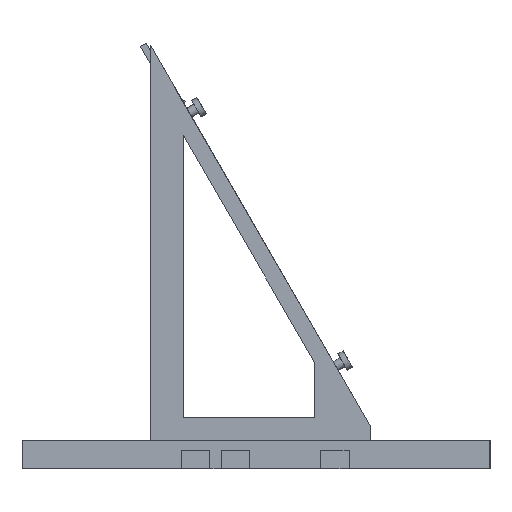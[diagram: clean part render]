
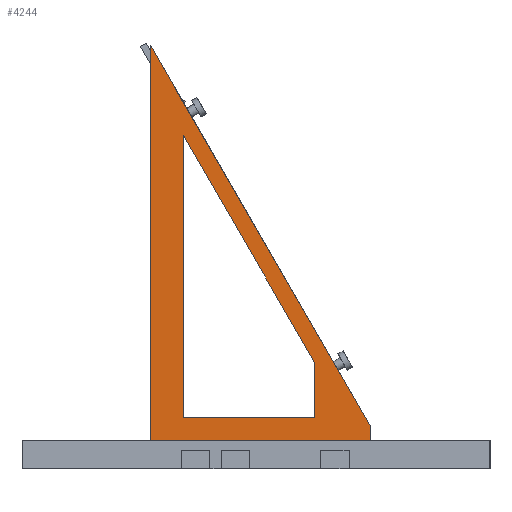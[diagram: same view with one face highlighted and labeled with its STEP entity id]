
A CAD part, left-side view. The second image highlights one B-rep face of the part: STEP entity #4244.
In plain terms, the highlighted planar face has unit normal (-1, 0, 0).
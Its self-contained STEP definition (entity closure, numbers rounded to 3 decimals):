
#72 = PLANE('',#73);
#73 = AXIS2_PLACEMENT_3D('',#74,#75,#76);
#74 = CARTESIAN_POINT('',(0.,-15.,12.));
#75 = DIRECTION('',(0.,0.,1.));
#76 = DIRECTION('',(1.,0.,0.));
#2263 = VERTEX_POINT('',#2264);
#2264 = CARTESIAN_POINT('',(13.,36.,12.));
#2277 = PLANE('',#2278);
#2278 = AXIS2_PLACEMENT_3D('',#2279,#2280,#2281);
#2279 = CARTESIAN_POINT('',(13.,36.,18.));
#2280 = DIRECTION('',(0.,1.,0.));
#2281 = DIRECTION('',(0.,0.,-1.));
#2288 = EDGE_CURVE('',#2263,#2289,#2291,.T.);
#2289 = VERTEX_POINT('',#2290);
#2290 = CARTESIAN_POINT('',(13.,130.,12.));
#2291 = SURFACE_CURVE('',#2292,(#2296,#2302),.PCURVE_S1.);
#2292 = LINE('',#2293,#2294);
#2293 = CARTESIAN_POINT('',(13.,42.339,12.));
#2294 = VECTOR('',#2295,1.);
#2295 = DIRECTION('',(0.,1.,0.));
#2296 = PCURVE('',#72,#2297);
#2297 = DEFINITIONAL_REPRESENTATION('',(#2298),#2301);
#2298 = B_SPLINE_CURVE_WITH_KNOTS('',1,(#2299,#2300),.UNSPECIFIED.,.F.,
  .F.,(2,2),(-6.339,87.661),.PIECEWISE_BEZIER_KNOTS.);
#2299 = CARTESIAN_POINT('',(13.,51.));
#2300 = CARTESIAN_POINT('',(13.,145.));
#2301 = ( GEOMETRIC_REPRESENTATION_CONTEXT(2) 
PARAMETRIC_REPRESENTATION_CONTEXT() REPRESENTATION_CONTEXT('2D SPACE',''
  ) );
#2302 = PCURVE('',#2303,#2308);
#2303 = PLANE('',#2304);
#2304 = AXIS2_PLACEMENT_3D('',#2305,#2306,#2307);
#2305 = CARTESIAN_POINT('',(13.,99.678,78.703));
#2306 = DIRECTION('',(1.,0.,0.));
#2307 = DIRECTION('',(-0.,0.,1.));
#2308 = DEFINITIONAL_REPRESENTATION('',(#2309),#2312);
#2309 = B_SPLINE_CURVE_WITH_KNOTS('',1,(#2310,#2311),.UNSPECIFIED.,.F.,
  .F.,(2,2),(-6.339,87.661),.PIECEWISE_BEZIER_KNOTS.);
#2310 = CARTESIAN_POINT('',(-66.703,63.678));
#2311 = CARTESIAN_POINT('',(-66.703,-30.322));
#2312 = ( GEOMETRIC_REPRESENTATION_CONTEXT(2) 
PARAMETRIC_REPRESENTATION_CONTEXT() REPRESENTATION_CONTEXT('2D SPACE',''
  ) );
#2327 = PLANE('',#2328);
#2328 = AXIS2_PLACEMENT_3D('',#2329,#2330,#2331);
#2329 = CARTESIAN_POINT('',(13.,130.,11.));
#2330 = DIRECTION('',(0.,-1.,0.));
#2331 = DIRECTION('',(0.,0.,1.));
#4029 = PLANE('',#4030);
#4030 = AXIS2_PLACEMENT_3D('',#4031,#4032,#4033);
#4031 = CARTESIAN_POINT('',(13.,130.,180.813));
#4032 = DIRECTION('',(0.,0.866,-0.5));
#4033 = DIRECTION('',(0.,-0.5,-0.866));
#4060 = PLANE('',#4061);
#4061 = AXIS2_PLACEMENT_3D('',#4062,#4063,#4064);
#4062 = CARTESIAN_POINT('',(12.,116.,22.));
#4063 = DIRECTION('',(0.,-1.,0.));
#4064 = DIRECTION('',(0.,0.,1.));
#4086 = PLANE('',#4087);
#4087 = AXIS2_PLACEMENT_3D('',#4088,#4089,#4090);
#4088 = CARTESIAN_POINT('',(12.,60.,22.));
#4089 = DIRECTION('',(0.,0.,1.));
#4090 = DIRECTION('',(0.,1.,0.));
#4112 = PLANE('',#4113);
#4113 = AXIS2_PLACEMENT_3D('',#4114,#4115,#4116);
#4114 = CARTESIAN_POINT('',(12.,60.,45.569));
#4115 = DIRECTION('',(-0.,1.,0.));
#4116 = DIRECTION('',(0.,0.,-1.));
#4136 = PLANE('',#4137);
#4137 = AXIS2_PLACEMENT_3D('',#4138,#4139,#4140);
#4138 = CARTESIAN_POINT('',(12.,116.,142.564));
#4139 = DIRECTION('',(0.,0.866,-0.5));
#4140 = DIRECTION('',(0.,-0.5,-0.866));
#4150 = EDGE_CURVE('',#4151,#2263,#4153,.T.);
#4151 = VERTEX_POINT('',#4152);
#4152 = CARTESIAN_POINT('',(13.,36.,18.));
#4153 = SURFACE_CURVE('',#4154,(#4158,#4165),.PCURVE_S1.);
#4154 = LINE('',#4155,#4156);
#4155 = CARTESIAN_POINT('',(13.,36.,18.));
#4156 = VECTOR('',#4157,1.);
#4157 = DIRECTION('',(0.,0.,-1.));
#4158 = PCURVE('',#2277,#4159);
#4159 = DEFINITIONAL_REPRESENTATION('',(#4160),#4164);
#4160 = LINE('',#4161,#4162);
#4161 = CARTESIAN_POINT('',(0.,0.));
#4162 = VECTOR('',#4163,1.);
#4163 = DIRECTION('',(1.,0.));
#4164 = ( GEOMETRIC_REPRESENTATION_CONTEXT(2) 
PARAMETRIC_REPRESENTATION_CONTEXT() REPRESENTATION_CONTEXT('2D SPACE',''
  ) );
#4165 = PCURVE('',#2303,#4166);
#4166 = DEFINITIONAL_REPRESENTATION('',(#4167),#4171);
#4167 = LINE('',#4168,#4169);
#4168 = CARTESIAN_POINT('',(-60.703,63.678));
#4169 = VECTOR('',#4170,1.);
#4170 = DIRECTION('',(-1.,0.));
#4171 = ( GEOMETRIC_REPRESENTATION_CONTEXT(2) 
PARAMETRIC_REPRESENTATION_CONTEXT() REPRESENTATION_CONTEXT('2D SPACE',''
  ) );
#4199 = EDGE_CURVE('',#2289,#4200,#4202,.T.);
#4200 = VERTEX_POINT('',#4201);
#4201 = CARTESIAN_POINT('',(13.,130.,180.813));
#4202 = SURFACE_CURVE('',#4203,(#4207,#4214),.PCURVE_S1.);
#4203 = LINE('',#4204,#4205);
#4204 = CARTESIAN_POINT('',(13.,130.,11.));
#4205 = VECTOR('',#4206,1.);
#4206 = DIRECTION('',(0.,0.,1.));
#4207 = PCURVE('',#2327,#4208);
#4208 = DEFINITIONAL_REPRESENTATION('',(#4209),#4213);
#4209 = LINE('',#4210,#4211);
#4210 = CARTESIAN_POINT('',(0.,0.));
#4211 = VECTOR('',#4212,1.);
#4212 = DIRECTION('',(1.,0.));
#4213 = ( GEOMETRIC_REPRESENTATION_CONTEXT(2) 
PARAMETRIC_REPRESENTATION_CONTEXT() REPRESENTATION_CONTEXT('2D SPACE',''
  ) );
#4214 = PCURVE('',#2303,#4215);
#4215 = DEFINITIONAL_REPRESENTATION('',(#4216),#4220);
#4216 = LINE('',#4217,#4218);
#4217 = CARTESIAN_POINT('',(-67.703,-30.322));
#4218 = VECTOR('',#4219,1.);
#4219 = DIRECTION('',(1.,0.));
#4220 = ( GEOMETRIC_REPRESENTATION_CONTEXT(2) 
PARAMETRIC_REPRESENTATION_CONTEXT() REPRESENTATION_CONTEXT('2D SPACE',''
  ) );
#4244 = ADVANCED_FACE('',(#4245,#4271),#2303,.F.);
#4245 = FACE_BOUND('',#4246,.F.);
#4246 = EDGE_LOOP('',(#4247,#4248,#4249,#4250));
#4247 = ORIENTED_EDGE('',*,*,#4150,.T.);
#4248 = ORIENTED_EDGE('',*,*,#2288,.T.);
#4249 = ORIENTED_EDGE('',*,*,#4199,.T.);
#4250 = ORIENTED_EDGE('',*,*,#4251,.T.);
#4251 = EDGE_CURVE('',#4200,#4151,#4252,.T.);
#4252 = SURFACE_CURVE('',#4253,(#4257,#4264),.PCURVE_S1.);
#4253 = LINE('',#4254,#4255);
#4254 = CARTESIAN_POINT('',(13.,130.,180.813));
#4255 = VECTOR('',#4256,1.);
#4256 = DIRECTION('',(0.,-0.5,-0.866));
#4257 = PCURVE('',#2303,#4258);
#4258 = DEFINITIONAL_REPRESENTATION('',(#4259),#4263);
#4259 = LINE('',#4260,#4261);
#4260 = CARTESIAN_POINT('',(102.11,-30.322));
#4261 = VECTOR('',#4262,1.);
#4262 = DIRECTION('',(-0.866,0.5));
#4263 = ( GEOMETRIC_REPRESENTATION_CONTEXT(2) 
PARAMETRIC_REPRESENTATION_CONTEXT() REPRESENTATION_CONTEXT('2D SPACE',''
  ) );
#4264 = PCURVE('',#4029,#4265);
#4265 = DEFINITIONAL_REPRESENTATION('',(#4266),#4270);
#4266 = LINE('',#4267,#4268);
#4267 = CARTESIAN_POINT('',(0.,0.));
#4268 = VECTOR('',#4269,1.);
#4269 = DIRECTION('',(1.,0.));
#4270 = ( GEOMETRIC_REPRESENTATION_CONTEXT(2) 
PARAMETRIC_REPRESENTATION_CONTEXT() REPRESENTATION_CONTEXT('2D SPACE',''
  ) );
#4271 = FACE_BOUND('',#4272,.F.);
#4272 = EDGE_LOOP('',(#4273,#4296,#4317,#4338));
#4273 = ORIENTED_EDGE('',*,*,#4274,.T.);
#4274 = EDGE_CURVE('',#4275,#4277,#4279,.T.);
#4275 = VERTEX_POINT('',#4276);
#4276 = CARTESIAN_POINT('',(13.,116.,142.564));
#4277 = VERTEX_POINT('',#4278);
#4278 = CARTESIAN_POINT('',(13.,116.,22.));
#4279 = SURFACE_CURVE('',#4280,(#4284,#4290),.PCURVE_S1.);
#4280 = LINE('',#4281,#4282);
#4281 = CARTESIAN_POINT('',(13.,116.,50.352));
#4282 = VECTOR('',#4283,1.);
#4283 = DIRECTION('',(0.,0.,-1.));
#4284 = PCURVE('',#2303,#4285);
#4285 = DEFINITIONAL_REPRESENTATION('',(#4286),#4289);
#4286 = B_SPLINE_CURVE_WITH_KNOTS('',1,(#4287,#4288),.UNSPECIFIED.,.F.,
  .F.,(2,2),(-92.212,28.352),.PIECEWISE_BEZIER_KNOTS.);
#4287 = CARTESIAN_POINT('',(63.861,-16.322));
#4288 = CARTESIAN_POINT('',(-56.703,-16.322));
#4289 = ( GEOMETRIC_REPRESENTATION_CONTEXT(2) 
PARAMETRIC_REPRESENTATION_CONTEXT() REPRESENTATION_CONTEXT('2D SPACE',''
  ) );
#4290 = PCURVE('',#4060,#4291);
#4291 = DEFINITIONAL_REPRESENTATION('',(#4292),#4295);
#4292 = B_SPLINE_CURVE_WITH_KNOTS('',1,(#4293,#4294),.UNSPECIFIED.,.F.,
  .F.,(2,2),(-92.212,28.352),.PIECEWISE_BEZIER_KNOTS.);
#4293 = CARTESIAN_POINT('',(120.564,-1.));
#4294 = CARTESIAN_POINT('',(0.,-1.));
#4295 = ( GEOMETRIC_REPRESENTATION_CONTEXT(2) 
PARAMETRIC_REPRESENTATION_CONTEXT() REPRESENTATION_CONTEXT('2D SPACE',''
  ) );
#4296 = ORIENTED_EDGE('',*,*,#4297,.T.);
#4297 = EDGE_CURVE('',#4277,#4298,#4300,.T.);
#4298 = VERTEX_POINT('',#4299);
#4299 = CARTESIAN_POINT('',(13.,60.,22.));
#4300 = SURFACE_CURVE('',#4301,(#4305,#4311),.PCURVE_S1.);
#4301 = LINE('',#4302,#4303);
#4302 = CARTESIAN_POINT('',(13.,79.839,22.));
#4303 = VECTOR('',#4304,1.);
#4304 = DIRECTION('',(0.,-1.,0.));
#4305 = PCURVE('',#2303,#4306);
#4306 = DEFINITIONAL_REPRESENTATION('',(#4307),#4310);
#4307 = B_SPLINE_CURVE_WITH_KNOTS('',1,(#4308,#4309),.UNSPECIFIED.,.F.,
  .F.,(2,2),(-36.161,19.839),.PIECEWISE_BEZIER_KNOTS.);
#4308 = CARTESIAN_POINT('',(-56.703,-16.322));
#4309 = CARTESIAN_POINT('',(-56.703,39.678));
#4310 = ( GEOMETRIC_REPRESENTATION_CONTEXT(2) 
PARAMETRIC_REPRESENTATION_CONTEXT() REPRESENTATION_CONTEXT('2D SPACE',''
  ) );
#4311 = PCURVE('',#4086,#4312);
#4312 = DEFINITIONAL_REPRESENTATION('',(#4313),#4316);
#4313 = B_SPLINE_CURVE_WITH_KNOTS('',1,(#4314,#4315),.UNSPECIFIED.,.F.,
  .F.,(2,2),(-36.161,19.839),.PIECEWISE_BEZIER_KNOTS.);
#4314 = CARTESIAN_POINT('',(56.,-1.));
#4315 = CARTESIAN_POINT('',(0.,-1.));
#4316 = ( GEOMETRIC_REPRESENTATION_CONTEXT(2) 
PARAMETRIC_REPRESENTATION_CONTEXT() REPRESENTATION_CONTEXT('2D SPACE',''
  ) );
#4317 = ORIENTED_EDGE('',*,*,#4318,.T.);
#4318 = EDGE_CURVE('',#4298,#4319,#4321,.T.);
#4319 = VERTEX_POINT('',#4320);
#4320 = CARTESIAN_POINT('',(13.,60.,45.569));
#4321 = SURFACE_CURVE('',#4322,(#4326,#4332),.PCURVE_S1.);
#4322 = LINE('',#4323,#4324);
#4323 = CARTESIAN_POINT('',(13.,60.,62.136));
#4324 = VECTOR('',#4325,1.);
#4325 = DIRECTION('',(0.,-0.,1.));
#4326 = PCURVE('',#2303,#4327);
#4327 = DEFINITIONAL_REPRESENTATION('',(#4328),#4331);
#4328 = B_SPLINE_CURVE_WITH_KNOTS('',1,(#4329,#4330),.UNSPECIFIED.,.F.,
  .F.,(2,2),(-40.136,-16.567),.PIECEWISE_BEZIER_KNOTS.);
#4329 = CARTESIAN_POINT('',(-56.703,39.678));
#4330 = CARTESIAN_POINT('',(-33.134,39.678));
#4331 = ( GEOMETRIC_REPRESENTATION_CONTEXT(2) 
PARAMETRIC_REPRESENTATION_CONTEXT() REPRESENTATION_CONTEXT('2D SPACE',''
  ) );
#4332 = PCURVE('',#4112,#4333);
#4333 = DEFINITIONAL_REPRESENTATION('',(#4334),#4337);
#4334 = B_SPLINE_CURVE_WITH_KNOTS('',1,(#4335,#4336),.UNSPECIFIED.,.F.,
  .F.,(2,2),(-40.136,-16.567),.PIECEWISE_BEZIER_KNOTS.);
#4335 = CARTESIAN_POINT('',(23.569,-1.));
#4336 = CARTESIAN_POINT('',(0.,-1.));
#4337 = ( GEOMETRIC_REPRESENTATION_CONTEXT(2) 
PARAMETRIC_REPRESENTATION_CONTEXT() REPRESENTATION_CONTEXT('2D SPACE',''
  ) );
#4338 = ORIENTED_EDGE('',*,*,#4339,.T.);
#4339 = EDGE_CURVE('',#4319,#4275,#4340,.T.);
#4340 = SURFACE_CURVE('',#4341,(#4345,#4351),.PCURVE_S1.);
#4341 = LINE('',#4342,#4343);
#4342 = CARTESIAN_POINT('',(13.,100.133,115.082));
#4343 = VECTOR('',#4344,1.);
#4344 = DIRECTION('',(-0.,0.5,0.866));
#4345 = PCURVE('',#2303,#4346);
#4346 = DEFINITIONAL_REPRESENTATION('',(#4347),#4350);
#4347 = B_SPLINE_CURVE_WITH_KNOTS('',1,(#4348,#4349),.UNSPECIFIED.,.F.,
  .F.,(2,2),(-80.267,31.733),.PIECEWISE_BEZIER_KNOTS.);
#4348 = CARTESIAN_POINT('',(-33.134,39.678));
#4349 = CARTESIAN_POINT('',(63.861,-16.322));
#4350 = ( GEOMETRIC_REPRESENTATION_CONTEXT(2) 
PARAMETRIC_REPRESENTATION_CONTEXT() REPRESENTATION_CONTEXT('2D SPACE',''
  ) );
#4351 = PCURVE('',#4136,#4352);
#4352 = DEFINITIONAL_REPRESENTATION('',(#4353),#4356);
#4353 = B_SPLINE_CURVE_WITH_KNOTS('',1,(#4354,#4355),.UNSPECIFIED.,.F.,
  .F.,(2,2),(-80.267,31.733),.PIECEWISE_BEZIER_KNOTS.);
#4354 = CARTESIAN_POINT('',(112.,-1.));
#4355 = CARTESIAN_POINT('',(0.,-1.));
#4356 = ( GEOMETRIC_REPRESENTATION_CONTEXT(2) 
PARAMETRIC_REPRESENTATION_CONTEXT() REPRESENTATION_CONTEXT('2D SPACE',''
  ) );
